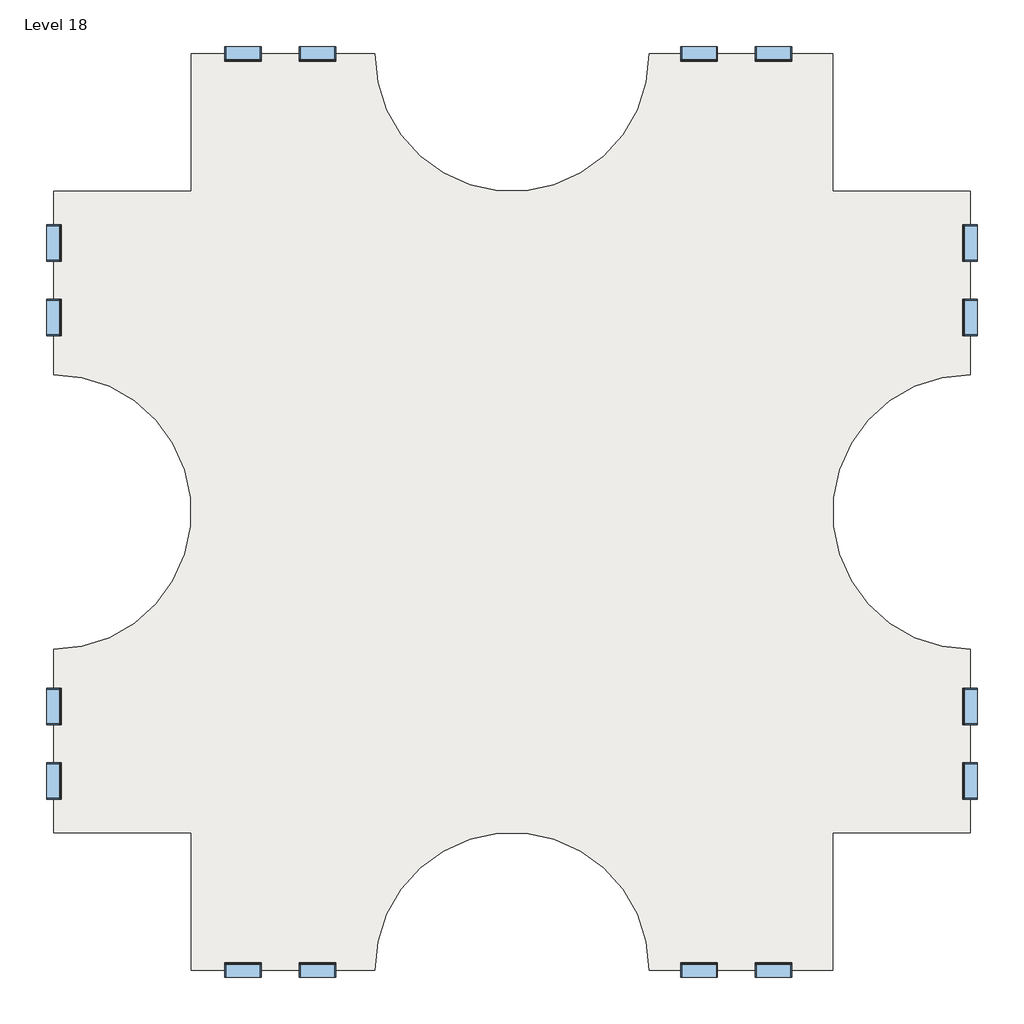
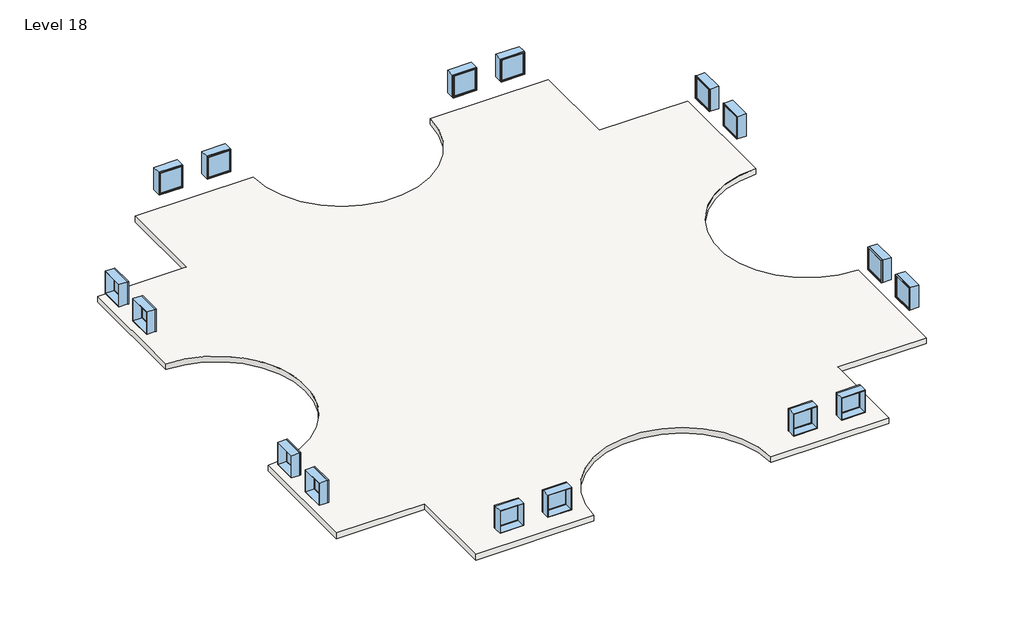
# One storey: 16 windows, 2 slabs.
"""IFC4 building model written with IfcOpenShell, lengths in millimetres."""

import ifcopenshell
import ifcopenshell.guid

model = None  # the IFC model being written
_history = None  # IfcOwnerHistory: only IFC2X3 demands one
_inside = {}  # id of a spatial element -> (the spatial element, [elements in it])
_under = {}  # id of a project, library or spatial element -> (it, [spatial elements below it])
_declared = {}  # id of a project -> (the project, [libraries it declares])
_typed = {}  # id of a type object -> (the type object, [elements of that type])
_made_of = {}  # id of a material, layer set ... -> (it, [elements and type objects made of it])


def new_model(schema):
    """Start an empty IFC model of exactly this schema.

    Asked for "IFC4X3", IfcOpenShell would pick the latest addendum, in which some entities
    have other attributes; the version numbers below select the first issue.
    IFC2X3 requires an IfcOwnerHistory on every rooted entity: one is made here for all.
    """
    global model, _history
    if schema == "IFC4X3":
        model = ifcopenshell.file(schema_version=(4, 3, 0, 0))
    else:
        model = ifcopenshell.file(schema=schema)
    _inside.clear()
    _under.clear()
    _declared.clear()
    _typed.clear()
    _made_of.clear()
    _history = None
    if model.schema == "IFC2X3":
        org = make("IfcOrganization", Name="unknown")
        user = make(
            "IfcPersonAndOrganization",
            ThePerson=make("IfcPerson", FamilyName="unknown"),
            TheOrganization=org,
        )
        app = make(
            "IfcApplication",
            ApplicationDeveloper=org,
            Version="unknown",
            ApplicationFullName="unknown",
            ApplicationIdentifier="unknown",
        )
        _history = make(
            "IfcOwnerHistory",
            OwningUser=user,
            OwningApplication=app,
            ChangeAction="ADDED",
            CreationDate=0,
        )
    return model


def make(cls, **values):
    """One entity of the class cls with the attributes given. An attribute that is None is left unset."""
    return model.create_entity(
        cls, **{name: value for name, value in values.items() if value is not None}
    )


def rooted(cls, **values):
    """An entity with a GlobalId (a new one), such as an element, a storey or a relation."""
    return make(cls, GlobalId=ifcopenshell.guid.new(), OwnerHistory=_history, **values)


def si_unit(unit_type, name, prefix=None):
    """IfcSIUnit, for example si_unit("LENGTHUNIT", "METRE", prefix="MILLI")."""
    return make("IfcSIUnit", UnitType=unit_type, Prefix=prefix, Name=name)


def assignment(units):
    """IfcUnitAssignment: the units of a project."""
    return None if units is None else make("IfcUnitAssignment", Units=units)


def point(xyz):
    """IfcCartesianPoint."""
    return None if xyz is None else make("IfcCartesianPoint", Coordinates=xyz)


def direction(xyz):
    """IfcDirection."""
    return None if xyz is None else make("IfcDirection", DirectionRatios=xyz)


def frame(location, z_axis=None, x_axis=None):
    """IfcAxis2Placement3D, a coordinate frame: its origin and axes. An axis left out is left unset."""
    return make(
        "IfcAxis2Placement3D",
        Location=point(location),
        Axis=direction(z_axis),
        RefDirection=direction(x_axis),
    )


def frame_2d(location, x_axis=None):
    """IfcAxis2Placement2D, a coordinate frame in the plane: its origin and x axis."""
    return make(
        "IfcAxis2Placement2D", Location=point(location), RefDirection=direction(x_axis)
    )


def origin():
    """The frame at (0, 0, 0) with its axes left unset."""
    return frame((0.0, 0.0, 0.0))


def place(relative_to, where):
    """IfcLocalPlacement: puts the frame where relative to a parent placement (None: the world)."""
    return make(
        "IfcLocalPlacement", PlacementRelTo=relative_to, RelativePlacement=where
    )


def context(
    kind, dimensions, precision=None, world=None, true_north=None, identifier=None
):
    """IfcGeometricRepresentationContext, for example the 3D "Model" context."""
    return make(
        "IfcGeometricRepresentationContext",
        ContextIdentifier=identifier,
        ContextType=kind,
        CoordinateSpaceDimension=dimensions,
        Precision=precision,
        WorldCoordinateSystem=world,
        TrueNorth=true_north,
    )


def project(units=None, contexts=None):
    """IfcProject with its units and contexts."""
    return rooted(
        "IfcProject",
        Name="project",
        RepresentationContexts=contexts,
        UnitsInContext=assignment(units),
    )


def spatial(cls, under=None, at=None, **own):
    """A site, building, storey or space (cls), placed at a placement, below another one or the project."""
    s = rooted(cls, ObjectPlacement=at, **own)
    if under is not None:
        _under.setdefault(under.id(), (under, []))[1].append(s)
    return s


def polyline(points):
    """IfcPolyline through the points."""
    return make("IfcPolyline", Points=[point(p) for p in points])


def circle_curve(where, radius):
    """IfcCircle in the frame where."""
    return make("IfcCircle", Position=where, Radius=radius)


def trimmed(basis, trim1, trim2, sense, master):
    """IfcTrimmedCurve: the piece of a basis curve between two trims."""
    return make(
        "IfcTrimmedCurve",
        BasisCurve=basis,
        Trim1=trim1,
        Trim2=trim2,
        SenseAgreement=sense,
        MasterRepresentation=master,
    )


def segment(curve, same_sense, transition):
    """IfcCompositeCurveSegment."""
    return make(
        "IfcCompositeCurveSegment",
        Transition=transition,
        SameSense=same_sense,
        ParentCurve=curve,
    )


def composite_curve(segments, self_intersect=None):
    """IfcCompositeCurve: segments joined end to end."""
    return make("IfcCompositeCurve", Segments=segments, SelfIntersect=self_intersect)


def outline(outer, holes=None, kind="AREA"):
    """IfcArbitraryClosedProfileDef: a profile drawn as a closed curve; with holes, ...WithVoids."""
    if holes is None:
        return make("IfcArbitraryClosedProfileDef", ProfileType=kind, OuterCurve=outer)
    return make(
        "IfcArbitraryProfileDefWithVoids",
        ProfileType=kind,
        OuterCurve=outer,
        InnerCurves=holes,
    )


def extrude(swept, where, along, depth):
    """IfcExtrudedAreaSolid: the profile swept, set in the frame where, extruded along a direction by depth."""
    return make(
        "IfcExtrudedAreaSolid",
        SweptArea=swept,
        Position=where,
        ExtrudedDirection=direction(along),
        Depth=depth,
    )


def shape(context_of_items, identifier, shape_type, items):
    """IfcShapeRepresentation: the items that make up one representation, for example the "Body"."""
    return make(
        "IfcShapeRepresentation",
        ContextOfItems=context_of_items,
        RepresentationIdentifier=identifier,
        RepresentationType=shape_type,
        Items=items,
    )


def source(mapping_origin, context_of_items, identifier, shape_type, items):
    """IfcRepresentationMap: a shape defined once, which mapped items show again and again."""
    return make(
        "IfcRepresentationMap",
        MappingOrigin=mapping_origin,
        MappedRepresentation=shape(context_of_items, identifier, shape_type, items),
    )


def transform(
    local_origin,
    x_axis=None,
    y_axis=None,
    z_axis=None,
    scale=None,
    scale2=None,
    scale3=None,
    uniform=True,
):
    """IfcCartesianTransformationOperator3D, or its non-uniform kind. x_axis, y_axis, z_axis: its Axis1, 2, 3."""
    if uniform:
        return make(
            "IfcCartesianTransformationOperator3D",
            Axis1=direction(x_axis),
            Axis2=direction(y_axis),
            LocalOrigin=point(local_origin),
            Scale=scale,
            Axis3=direction(z_axis),
        )
    return make(
        "IfcCartesianTransformationOperator3DnonUniform",
        Axis1=direction(x_axis),
        Axis2=direction(y_axis),
        LocalOrigin=point(local_origin),
        Scale=scale,
        Axis3=direction(z_axis),
        Scale2=scale2,
        Scale3=scale3,
    )


def mapped(mapping_source, mapping_target):
    """IfcMappedItem: shows the shape of a source again, moved by a transform."""
    return make(
        "IfcMappedItem", MappingSource=mapping_source, MappingTarget=mapping_target
    )


def made_of(thing, what):
    """Note that an element or type object is made of a material, layer set ...; save() writes the relation."""
    if what is not None:
        _made_of.setdefault(what.id(), (what, []))[1].append(thing)
    return thing


def element(
    cls,
    number,
    at=None,
    inside=None,
    cuts=None,
    type_object=None,
    material=None,
    context=None,
    identifier="Body",
    shape_type=None,
    held_by="IfcProductDefinitionShape",
    body=None,
    shapes=None,
    **own,
):
    """One element of the class cls, such as IfcWall. Its Tag is "e" and its number.

    at: its placement. inside: the storey or other place that contains it. cuts: it is an
    opening in that element (IfcRelVoidsElement). A single representation is given by context,
    identifier, shape_type and body (its items); several are given by shapes. held_by: the class
    of the entity that holds the representations. save() writes the other relations.
    """
    e = rooted(cls, Tag="e%d" % number, ObjectPlacement=at, **own)
    if body is not None:
        shapes = [shape(context, identifier, shape_type, body)]
    if shapes is not None:
        e.Representation = make(held_by, Representations=shapes)
    if inside is not None:
        _inside.setdefault(inside.id(), (inside, []))[1].append(e)
    if cuts is not None:
        rooted(
            "IfcRelVoidsElement", RelatingBuildingElement=cuts, RelatedOpeningElement=e
        )
    if type_object is not None:
        _typed.setdefault(type_object.id(), (type_object, []))[1].append(e)
    return made_of(e, material)


def aggregate(whole, parts):
    """IfcRelAggregates: a whole, such as a stair, and the parts it consists of."""
    return rooted("IfcRelAggregates", RelatingObject=whole, RelatedObjects=parts)


def save(model, path):
    """Write the relations noted so far, then the file.

    IfcRelAggregates (storeys below a building ...), IfcRelContainedInSpatialStructure (elements
    in a storey), IfcRelDefinesByType, IfcRelAssociatesMaterial and IfcRelDeclares: one each for
    every whole, place, type object, material and project.
    """
    for whole, parts in _under.values():
        aggregate(whole, parts)
    for where, things in _inside.values():
        rooted(
            "IfcRelContainedInSpatialStructure",
            RelatedElements=things,
            RelatingStructure=where,
        )
    for kind, things in _typed.values():
        rooted("IfcRelDefinesByType", RelatedObjects=things, RelatingType=kind)
    for what, things in _made_of.values():
        rooted("IfcRelAssociatesMaterial", RelatedObjects=things, RelatingMaterial=what)
    for by, libraries in _declared.values():
        rooted("IfcRelDeclares", RelatingContext=by, RelatedDefinitions=libraries)
    model.write(path)


def window_d0035ecf(model_context):
    return source(origin(), model_context, "Body", "SweptSolid", [
        extrude(outline(polyline([(508.0, 200.025), (-584.2, 200.025), (-584.2, 212.725), (508.0, 212.725), (508.0, 200.025)])), frame((0.0, 0.0, 977.9), z_axis=(0.0, 0.0, 1.0), x_axis=(1.0, 0.0, 0.0)), (0.0, 0.0, 1.0), 1092.2),
        extrude(outline(polyline([(2114.55, -628.65), (933.45, -628.65), (933.45, 552.45), (2114.55, 552.45), (2114.55, -628.65)]), holes=[polyline([(2070.1, -584.2), (2070.1, 508.0), (977.9, 508.0), (977.9, -584.2), (2070.1, -584.2)])]), frame((0.0, 184.15, 0.0), z_axis=(0.0, 1.0, 0.0), x_axis=(0.0, 0.0, 1.0)), (0.0, 0.0, 1.0), 44.45),
        extrude(outline(polyline([(2133.6, -647.7), (914.4, -647.7), (914.4, 571.5), (2133.6, 571.5), (2133.6, -647.7)]), holes=[polyline([(2101.85, -615.95), (2101.85, 539.75), (946.15, 539.75), (946.15, -615.95), (2101.85, -615.95)])]), frame((0.0, -247.65, 0.0), z_axis=(0.0, 1.0, 0.0), x_axis=(0.0, 0.0, 1.0)), (0.0, 0.0, 1.0), 431.8),
        extrude(outline(polyline([(2133.6, 571.5), (2133.6, -647.7), (914.4, -647.7), (914.4, 571.5), (2133.6, 571.5)]), holes=[polyline([(2114.55, 552.45), (933.45, 552.45), (933.45, -628.65), (2114.55, -628.65), (2114.55, 552.45)])]), frame((0.0, 184.15, 0.0), z_axis=(0.0, 1.0, 0.0), x_axis=(0.0, 0.0, 1.0)), (0.0, 0.0, 1.0), 63.5),
    ])


def window_d434eb62(model_context):
    return source(origin(), model_context, "Body", "SweptSolid", [
        extrude(outline(polyline([(508.0, -200.025), (508.0, -212.725), (-584.2, -212.725), (-584.2, -200.025), (508.0, -200.025)])), frame((0.0, 0.0, 977.9), z_axis=(0.0, 0.0, 1.0), x_axis=(1.0, 0.0, 0.0)), (0.0, 0.0, 1.0), 1092.2),
        extrude(outline(polyline([(2114.55, -628.65), (933.45, -628.65), (933.45, 552.45), (2114.55, 552.45), (2114.55, -628.65)]), holes=[polyline([(2070.1, -584.2), (2070.1, 508.0), (977.9, 508.0), (977.9, -584.2), (2070.1, -584.2)])]), frame((0.0, -228.6, 0.0), z_axis=(0.0, 1.0, 0.0), x_axis=(0.0, 0.0, 1.0)), (0.0, 0.0, 1.0), 44.45),
        extrude(outline(polyline([(2133.6, -647.7), (914.4, -647.7), (914.4, 571.5), (2133.6, 571.5), (2133.6, -647.7)]), holes=[polyline([(2101.85, -615.95), (2101.85, 539.75), (946.15, 539.75), (946.15, -615.95), (2101.85, -615.95)])]), frame((0.0, -184.15, 0.0), z_axis=(0.0, 1.0, 0.0), x_axis=(0.0, 0.0, 1.0)), (0.0, 0.0, 1.0), 431.8),
        extrude(outline(polyline([(2133.6, 571.5), (2133.6, -647.7), (914.4, -647.7), (914.4, 571.5), (2133.6, 571.5)]), holes=[polyline([(2114.55, 552.45), (933.45, 552.45), (933.45, -628.65), (2114.55, -628.65), (2114.55, 552.45)])]), frame((0.0, -247.65, 0.0), z_axis=(0.0, 1.0, 0.0), x_axis=(0.0, 0.0, 1.0)), (0.0, 0.0, 1.0), 63.5),
    ])


model = new_model("IFC4")

# Units and contexts
model_context = context("Model", 3, world=origin())
ifc_project = project(units=[si_unit("LENGTHUNIT", "METRE", prefix="MILLI")], contexts=[model_context])

# Site, building, storey
site = spatial("IfcSite", under=ifc_project)
building = spatial("IfcBuilding", under=site)
storey = spatial("IfcBuildingStorey", under=building, Name="Level 18", Elevation=51816.0)

# Slabs
placement = place(None, origin())
element("IfcSlab", 1, ObjectType="Generic - 12\"", at=placement, inside=storey, context=model_context, shape_type="SweptSolid", body=[
    extrude(outline(composite_curve([segment(polyline([(-7150.3629456, 4479.6634547), (-7150.3629456, 9051.6634547), (-1054.3629456, 9051.6634547)]), True, "CONTINUOUS"), segment(trimmed(circle_curve(frame_2d((3517.6370544, 9051.6634547)), 4572.0), [point((-1054.3629456, 9051.6634547))], [point((8089.6370544, 9051.6634547))], True, "CARTESIAN"), True, "CONTINUOUS"), segment(polyline([(8089.6370544, 9051.6634547), (14185.6370544, 9051.6634547), (14185.6370544, 4479.6634547), (18757.6370544, 4479.6634547), (18757.6370544, -1616.3365453)]), True, "CONTINUOUS"), segment(trimmed(circle_curve(frame_2d((18757.6370544, -6188.3365453)), 4572.0), [point((18757.6370544, -1616.3365453))], [point((18757.6370544, -10760.3365453))], True, "CARTESIAN"), True, "CONTINUOUS"), segment(polyline([(18757.6370544, -10760.3365453), (18757.6370544, -16856.3365453), (14185.6370544, -16856.3365453), (14185.6370544, -21428.3365453), (8089.6370544, -21428.3365453)]), True, "CONTINUOUS"), segment(trimmed(circle_curve(frame_2d((3517.6370544, -21428.3365453)), 4572.0), [point((8089.6370544, -21428.3365453))], [point((-1054.3629456, -21428.3365453))], True, "CARTESIAN"), True, "CONTINUOUS"), segment(polyline([(-1054.3629456, -21428.3365453), (-7150.3629456, -21428.3365453), (-7150.3629456, -16856.3365453), (-11722.3629456, -16856.3365453), (-11722.3629456, -10760.3365453)]), True, "CONTINUOUS"), segment(trimmed(circle_curve(frame_2d((-11722.3629456, -6188.3365453)), 4572.0), [point((-11722.3629456, -10760.3365453))], [point((-11722.3629456, -1616.3365453))], True, "CARTESIAN"), True, "CONTINUOUS"), segment(polyline([(-11722.3629456, -1616.3365453), (-11722.3629456, 4479.6634547), (-7150.3629456, 4479.6634547)]), True, "CONTINUOUS")], self_intersect=False)), frame((0.0, 0.0, 51511.2), z_axis=(0.0, 0.0, 1.0), x_axis=(1.0, 0.0, 0.0)), (0.0, 0.0, 1.0), 304.8),
])
element("IfcSlab", 2, ObjectType="Generic - 12\"", at=placement, inside=storey, context=model_context, shape_type="SweptSolid", body=[
    extrude(outline(composite_curve([segment(polyline([(-7150.3629456, 4479.6634547), (-7150.3629456, 9051.6634547), (-1054.3629456, 9051.6634547)]), True, "CONTINUOUS"), segment(trimmed(circle_curve(frame_2d((3517.6370544, 9051.6634547)), 4572.0), [point((-1054.3629456, 9051.6634547))], [point((8089.6370544, 9051.6634547))], True, "CARTESIAN"), True, "CONTINUOUS"), segment(polyline([(8089.6370544, 9051.6634547), (14185.6370544, 9051.6634547), (14185.6370544, 4479.6634547), (18757.6370544, 4479.6634547), (18757.6370544, -1616.3365453)]), True, "CONTINUOUS"), segment(trimmed(circle_curve(frame_2d((18757.6370544, -6188.3365453)), 4572.0), [point((18757.6370544, -1616.3365453))], [point((18757.6370544, -10760.3365453))], True, "CARTESIAN"), True, "CONTINUOUS"), segment(polyline([(18757.6370544, -10760.3365453), (18757.6370544, -16856.3365453), (14185.6370544, -16856.3365453), (14185.6370544, -21428.3365453), (8089.6370544, -21428.3365453)]), True, "CONTINUOUS"), segment(trimmed(circle_curve(frame_2d((3517.6370544, -21428.3365453)), 4572.0), [point((8089.6370544, -21428.3365453))], [point((-1054.3629456, -21428.3365453))], True, "CARTESIAN"), True, "CONTINUOUS"), segment(polyline([(-1054.3629456, -21428.3365453), (-7150.3629456, -21428.3365453), (-7150.3629456, -16856.3365453), (-11722.3629456, -16856.3365453), (-11722.3629456, -10760.3365453)]), True, "CONTINUOUS"), segment(trimmed(circle_curve(frame_2d((-11722.3629456, -6188.3365453)), 4572.0), [point((-11722.3629456, -10760.3365453))], [point((-11722.3629456, -1616.3365453))], True, "CARTESIAN"), True, "CONTINUOUS"), segment(polyline([(-11722.3629456, -1616.3365453), (-11722.3629456, 4479.6634547), (-7150.3629456, 4479.6634547)]), True, "CONTINUOUS")], self_intersect=False)), frame((0.0, 0.0, 51511.2), z_axis=(0.0, 0.0, 1.0), x_axis=(1.0, 0.0, 0.0)), (0.0, 0.0, 1.0), 304.8),
])

# Windows
window_shape = window_d0035ecf(model_context)
element("IfcWindow", 3, ObjectType="Fixed : 48\" x 48\"", at=placement, inside=storey, context=model_context, shape_type="MappedRepresentation", body=[
    mapped(window_shape, transform((-11719.1879456, 247.3884547, 51816.0), x_axis=(0.0, -1.0, 0.0), y_axis=(1.0, 0.0, 0.0), z_axis=(0.0, 0.0, 1.0))),
])
element("IfcWindow", 4, ObjectType="Fixed : 48\" x 48\"", at=placement, inside=storey, context=model_context, shape_type="MappedRepresentation", body=[
    mapped(window_shape, transform((-5469.1993281, 9048.4884547, 51816.0), x_axis=(-1.0, 0.0, 0.0), y_axis=(0.0, -1.0, 0.0), z_axis=(0.0, 0.0, 1.0))),
])
element("IfcWindow", 5, ObjectType="Fixed : 48\" x 48\"", at=placement, inside=storey, context=model_context, shape_type="MappedRepresentation", body=[
    mapped(window_shape, transform((-11719.1879456, -15175.1729277, 51816.0), x_axis=(0.0, -1.0, 0.0), y_axis=(1.0, 0.0, 0.0), z_axis=(0.0, 0.0, 1.0))),
])
element("IfcWindow", 6, ObjectType="Fixed : 48\" x 48\"", at=placement, inside=storey, context=model_context, shape_type="MappedRepresentation", body=[
    mapped(window_shape, transform((-2918.0879456, -21425.1615453, 51816.0), x_axis=(1.0, 0.0, 0.0), y_axis=(0.0, 1.0, 0.0), z_axis=(0.0, 0.0, 1.0))),
])
element("IfcWindow", 7, ObjectType="Fixed : 48\" x 48\"", at=placement, inside=storey, context=model_context, shape_type="MappedRepresentation", body=[
    mapped(window_shape, transform((18754.4620544, 2798.4998372, 51816.0), x_axis=(0.0, 1.0, 0.0), y_axis=(-1.0, 0.0, 0.0), z_axis=(0.0, 0.0, 1.0))),
])
element("IfcWindow", 8, ObjectType="Fixed : 48\" x 48\"", at=placement, inside=storey, context=model_context, shape_type="MappedRepresentation", body=[
    mapped(window_shape, transform((9705.7120544, 9048.4884547, 51816.0), x_axis=(-1.0, 0.0, 0.0), y_axis=(0.0, -1.0, 0.0), z_axis=(0.0, 0.0, 1.0))),
])
element("IfcWindow", 9, ObjectType="Fixed : 48\" x 48\"", at=placement, inside=storey, context=model_context, shape_type="MappedRepresentation", body=[
    mapped(window_shape, transform((18754.4620544, -12624.0615453, 51816.0), x_axis=(0.0, 1.0, 0.0), y_axis=(-1.0, 0.0, 0.0), z_axis=(0.0, 0.0, 1.0))),
])
element("IfcWindow", 10, ObjectType="Fixed : 48\" x 48\"", at=placement, inside=storey, context=model_context, shape_type="MappedRepresentation", body=[
    mapped(window_shape, transform((12256.8234368, -21425.1615453, 51816.0), x_axis=(1.0, 0.0, 0.0), y_axis=(0.0, 1.0, 0.0), z_axis=(0.0, 0.0, 1.0))),
])
window_2_shape = window_d434eb62(model_context)
element("IfcWindow", 11, ObjectType="Fixed : 48\" x 48\"", at=placement, inside=storey, context=model_context, shape_type="MappedRepresentation", body=[
    mapped(window_2_shape, transform((-11719.1879456, 2798.4998372, 51816.0), x_axis=(0.0, 1.0, 0.0), y_axis=(-1.0, 0.0, 0.0), z_axis=(0.0, 0.0, 1.0))),
])
element("IfcWindow", 12, ObjectType="Fixed : 48\" x 48\"", at=placement, inside=storey, context=model_context, shape_type="MappedRepresentation", body=[
    mapped(window_2_shape, transform((-2918.0879456, 9048.4884547, 51816.0), x_axis=(1.0, 0.0, 0.0), y_axis=(0.0, 1.0, 0.0), z_axis=(0.0, 0.0, 1.0))),
])
element("IfcWindow", 13, ObjectType="Fixed : 48\" x 48\"", at=placement, inside=storey, context=model_context, shape_type="MappedRepresentation", body=[
    mapped(window_2_shape, transform((-11719.1879456, -12624.0615453, 51816.0), x_axis=(0.0, 1.0, 0.0), y_axis=(-1.0, 0.0, 0.0), z_axis=(0.0, 0.0, 1.0))),
])
element("IfcWindow", 14, ObjectType="Fixed : 48\" x 48\"", at=placement, inside=storey, context=model_context, shape_type="MappedRepresentation", body=[
    mapped(window_2_shape, transform((-5469.1993281, -21425.1615453, 51816.0), x_axis=(-1.0, 0.0, 0.0), y_axis=(0.0, -1.0, 0.0), z_axis=(0.0, 0.0, 1.0))),
])
element("IfcWindow", 15, ObjectType="Fixed : 48\" x 48\"", at=placement, inside=storey, context=model_context, shape_type="MappedRepresentation", body=[
    mapped(window_2_shape, transform((18754.4620544, 247.3884547, 51816.0), x_axis=(0.0, -1.0, 0.0), y_axis=(1.0, 0.0, 0.0), z_axis=(0.0, 0.0, 1.0))),
])
element("IfcWindow", 16, ObjectType="Fixed : 48\" x 48\"", at=placement, inside=storey, context=model_context, shape_type="MappedRepresentation", body=[
    mapped(window_2_shape, transform((12256.8234368, 9048.4884547, 51816.0), x_axis=(1.0, 0.0, 0.0), y_axis=(0.0, 1.0, 0.0), z_axis=(0.0, 0.0, 1.0))),
])
element("IfcWindow", 17, ObjectType="Fixed : 48\" x 48\"", at=placement, inside=storey, context=model_context, shape_type="MappedRepresentation", body=[
    mapped(window_2_shape, transform((18754.4620544, -15175.1729277, 51816.0), x_axis=(0.0, -1.0, 0.0), y_axis=(1.0, 0.0, 0.0), z_axis=(0.0, 0.0, 1.0))),
])
element("IfcWindow", 18, ObjectType="Fixed : 48\" x 48\"", at=placement, inside=storey, context=model_context, shape_type="MappedRepresentation", body=[
    mapped(window_2_shape, transform((9705.7120544, -21425.1615453, 51816.0), x_axis=(-1.0, 0.0, 0.0), y_axis=(0.0, -1.0, 0.0), z_axis=(0.0, 0.0, 1.0))),
])

save(model, "model.ifc")
